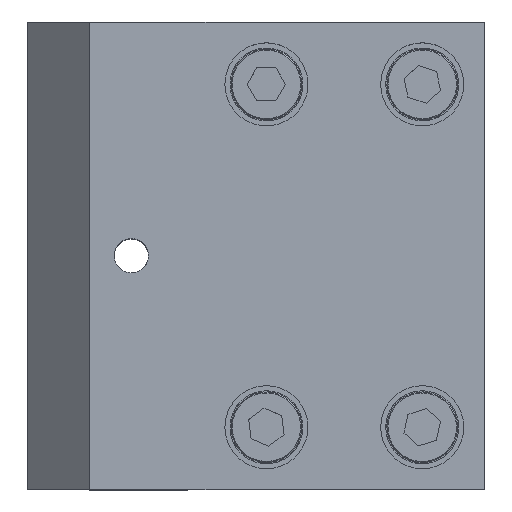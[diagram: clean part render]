
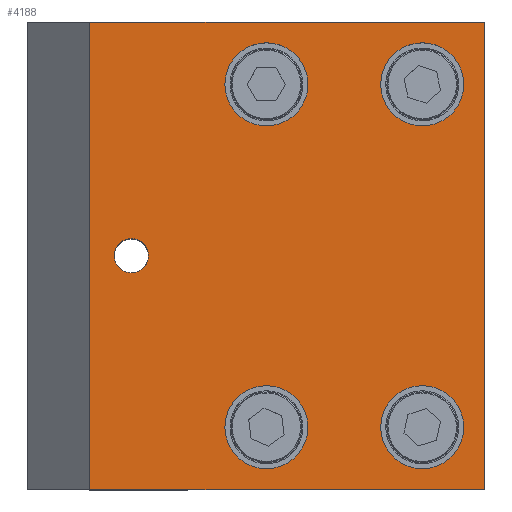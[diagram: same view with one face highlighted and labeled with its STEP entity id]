
A CAD part, top view. The second image highlights one B-rep face of the part: STEP entity #4188.
In plain terms, the highlighted planar face has unit normal (0, 0, 1).
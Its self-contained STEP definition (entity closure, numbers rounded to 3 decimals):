
#89 = CARTESIAN_POINT ( 'NONE',  ( -3., 16.5, 25. ) ) ;
#158 = AXIS2_PLACEMENT_3D ( 'NONE', #8154, #1831, #7593 ) ;
#183 = VERTEX_POINT ( 'NONE', #576 ) ;
#191 = ORIENTED_EDGE ( 'NONE', *, *, #4405, .F. ) ;
#205 = DIRECTION ( 'NONE',  ( 0., 0., 1. ) ) ;
#240 = CARTESIAN_POINT ( 'NONE',  ( 16., -16.5, 25. ) ) ;
#285 = EDGE_CURVE ( 'NONE', #2793, #6617, #8014, .T. ) ;
#312 = EDGE_CURVE ( 'NONE', #2183, #5331, #1659, .T. ) ;
#429 = AXIS2_PLACEMENT_3D ( 'NONE', #1101, #4335, #7480 ) ;
#464 = CIRCLE ( 'NONE', #6300, 4. ) ;
#541 = CIRCLE ( 'NONE', #6600, 4. ) ;
#576 = CARTESIAN_POINT ( 'NONE',  ( 22., 22.5, 25. ) ) ;
#616 = DIRECTION ( 'NONE',  ( 0., 0., 1. ) ) ;
#624 = CARTESIAN_POINT ( 'NONE',  ( -10.35, 0., 25. ) ) ;
#662 = VERTEX_POINT ( 'NONE', #3191 ) ;
#711 = DIRECTION ( 'NONE',  ( 1., 0., 0. ) ) ;
#727 = VECTOR ( 'NONE', #1612, 1000. ) ;
#800 = CARTESIAN_POINT ( 'NONE',  ( 22., -22.5, 25. ) ) ;
#816 = CARTESIAN_POINT ( 'NONE',  ( -13.65, 0., 25. ) ) ;
#842 = ORIENTED_EDGE ( 'NONE', *, *, #312, .F. ) ;
#934 = EDGE_CURVE ( 'NONE', #6790, #6518, #464, .T. ) ;
#939 = DIRECTION ( 'NONE',  ( -1., 0., 0. ) ) ;
#971 = DIRECTION ( 'NONE',  ( 1., 0., 0. ) ) ;
#1101 = CARTESIAN_POINT ( 'NONE',  ( 1., -16.5, 25. ) ) ;
#1166 = ORIENTED_EDGE ( 'NONE', *, *, #4482, .T. ) ;
#1181 = ORIENTED_EDGE ( 'NONE', *, *, #3291, .F. ) ;
#1315 = FACE_BOUND ( 'NONE', #6960, .T. ) ;
#1555 = CARTESIAN_POINT ( 'NONE',  ( 16., 16.5, 25. ) ) ;
#1612 = DIRECTION ( 'NONE',  ( 1., 0., 0. ) ) ;
#1659 = CIRCLE ( 'NONE', #2491, 1.65 ) ;
#1688 = CARTESIAN_POINT ( 'NONE',  ( 22., -22.5, 25. ) ) ;
#1800 = EDGE_CURVE ( 'NONE', #6518, #6790, #541, .T. ) ;
#1831 = DIRECTION ( 'NONE',  ( 0., 0., 1. ) ) ;
#2053 = AXIS2_PLACEMENT_3D ( 'NONE', #5293, #4639, #6530 ) ;
#2062 = AXIS2_PLACEMENT_3D ( 'NONE', #2876, #2957, #6751 ) ;
#2070 = ORIENTED_EDGE ( 'NONE', *, *, #1800, .F. ) ;
#2183 = VERTEX_POINT ( 'NONE', #816 ) ;
#2215 = VECTOR ( 'NONE', #6743, 1000. ) ;
#2250 = ORIENTED_EDGE ( 'NONE', *, *, #934, .F. ) ;
#2253 = CARTESIAN_POINT ( 'NONE',  ( -16., -22.5, 25. ) ) ;
#2279 = VERTEX_POINT ( 'NONE', #8118 ) ;
#2491 = AXIS2_PLACEMENT_3D ( 'NONE', #7672, #6491, #6514 ) ;
#2520 = PLANE ( 'NONE',  #4169 ) ;
#2589 = CARTESIAN_POINT ( 'NONE',  ( 12., -16.5, 25. ) ) ;
#2622 = EDGE_CURVE ( 'NONE', #6046, #2279, #4202, .T. ) ;
#2655 = CARTESIAN_POINT ( 'NONE',  ( 12., 16.5, 25. ) ) ;
#2702 = CARTESIAN_POINT ( 'NONE',  ( 5., -16.5, 25. ) ) ;
#2714 = AXIS2_PLACEMENT_3D ( 'NONE', #240, #3443, #4019 ) ;
#2793 = VERTEX_POINT ( 'NONE', #89 ) ;
#2876 = CARTESIAN_POINT ( 'NONE',  ( 16., -16.5, 25. ) ) ;
#2957 = DIRECTION ( 'NONE',  ( 0., 0., 1. ) ) ;
#3132 = FACE_BOUND ( 'NONE', #7329, .T. ) ;
#3191 = CARTESIAN_POINT ( 'NONE',  ( 22., -22.5, 25. ) ) ;
#3291 = EDGE_CURVE ( 'NONE', #2279, #6046, #5394, .T. ) ;
#3443 = DIRECTION ( 'NONE',  ( 0., 0., 1. ) ) ;
#3572 = EDGE_LOOP ( 'NONE', ( #2250, #2070 ) ) ;
#3661 = VERTEX_POINT ( 'NONE', #7349 ) ;
#3933 = ORIENTED_EDGE ( 'NONE', *, *, #5571, .F. ) ;
#4019 = DIRECTION ( 'NONE',  ( 1., 0., 0. ) ) ;
#4169 = AXIS2_PLACEMENT_3D ( 'NONE', #5576, #7572, #8100 ) ;
#4188 = ADVANCED_FACE ( 'NONE', ( #7774, #1315, #7964, #7184, #3132, #6287 ), #2520, .T. ) ;
#4202 = CIRCLE ( 'NONE', #429, 4. ) ;
#4218 = ORIENTED_EDGE ( 'NONE', *, *, #2622, .F. ) ;
#4235 = ORIENTED_EDGE ( 'NONE', *, *, #6280, .T. ) ;
#4296 = CIRCLE ( 'NONE', #158, 1.65 ) ;
#4335 = DIRECTION ( 'NONE',  ( 0., 0., 1. ) ) ;
#4400 = CARTESIAN_POINT ( 'NONE',  ( 1., -16.5, 25. ) ) ;
#4405 = EDGE_CURVE ( 'NONE', #6617, #2793, #7553, .T. ) ;
#4470 = LINE ( 'NONE', #800, #2215 ) ;
#4482 = EDGE_CURVE ( 'NONE', #183, #6140, #6764, .T. ) ;
#4521 = ORIENTED_EDGE ( 'NONE', *, *, #4997, .T. ) ;
#4620 = CARTESIAN_POINT ( 'NONE',  ( 1., 16.5, 25. ) ) ;
#4639 = DIRECTION ( 'NONE',  ( 0., 0., 1. ) ) ;
#4750 = CARTESIAN_POINT ( 'NONE',  ( 22., 22.5, 25. ) ) ;
#4818 = VERTEX_POINT ( 'NONE', #2589 ) ;
#4921 = ORIENTED_EDGE ( 'NONE', *, *, #6347, .F. ) ;
#4960 = EDGE_CURVE ( 'NONE', #4818, #5131, #5873, .T. ) ;
#4997 = EDGE_CURVE ( 'NONE', #662, #183, #4470, .T. ) ;
#5051 = DIRECTION ( 'NONE',  ( 1., 0., 0. ) ) ;
#5131 = VERTEX_POINT ( 'NONE', #5570 ) ;
#5213 = ORIENTED_EDGE ( 'NONE', *, *, #4960, .F. ) ;
#5245 = EDGE_LOOP ( 'NONE', ( #4921, #842 ) ) ;
#5293 = CARTESIAN_POINT ( 'NONE',  ( 1., 16.5, 25. ) ) ;
#5331 = VERTEX_POINT ( 'NONE', #624 ) ;
#5394 = CIRCLE ( 'NONE', #7614, 4. ) ;
#5441 = DIRECTION ( 'NONE',  ( 0., 0., 1. ) ) ;
#5474 = VECTOR ( 'NONE', #939, 1000. ) ;
#5493 = AXIS2_PLACEMENT_3D ( 'NONE', #4620, #205, #711 ) ;
#5542 = EDGE_CURVE ( 'NONE', #6140, #3661, #7058, .T. ) ;
#5570 = CARTESIAN_POINT ( 'NONE',  ( 20., -16.5, 25. ) ) ;
#5571 = EDGE_CURVE ( 'NONE', #5131, #4818, #6359, .T. ) ;
#5576 = CARTESIAN_POINT ( 'NONE',  ( 0., 0., 25. ) ) ;
#5873 = CIRCLE ( 'NONE', #2714, 4. ) ;
#5960 = CARTESIAN_POINT ( 'NONE',  ( 5., 16.5, 25. ) ) ;
#6046 = VERTEX_POINT ( 'NONE', #2702 ) ;
#6140 = VERTEX_POINT ( 'NONE', #7831 ) ;
#6252 = ORIENTED_EDGE ( 'NONE', *, *, #285, .F. ) ;
#6280 = EDGE_CURVE ( 'NONE', #3661, #662, #7678, .T. ) ;
#6287 = FACE_OUTER_BOUND ( 'NONE', #6846, .T. ) ;
#6300 = AXIS2_PLACEMENT_3D ( 'NONE', #7399, #8057, #971 ) ;
#6347 = EDGE_CURVE ( 'NONE', #5331, #2183, #4296, .T. ) ;
#6359 = CIRCLE ( 'NONE', #2062, 4. ) ;
#6424 = EDGE_LOOP ( 'NONE', ( #4218, #1181 ) ) ;
#6491 = DIRECTION ( 'NONE',  ( 0., 0., 1. ) ) ;
#6514 = DIRECTION ( 'NONE',  ( 1., 0., 0. ) ) ;
#6518 = VERTEX_POINT ( 'NONE', #2655 ) ;
#6530 = DIRECTION ( 'NONE',  ( 1., 0., 0. ) ) ;
#6600 = AXIS2_PLACEMENT_3D ( 'NONE', #1555, #5441, #7907 ) ;
#6617 = VERTEX_POINT ( 'NONE', #5960 ) ;
#6674 = DIRECTION ( 'NONE',  ( 0., -1., 0. ) ) ;
#6743 = DIRECTION ( 'NONE',  ( 0., 1., 0. ) ) ;
#6751 = DIRECTION ( 'NONE',  ( 1., 0., 0. ) ) ;
#6764 = LINE ( 'NONE', #4750, #5474 ) ;
#6790 = VERTEX_POINT ( 'NONE', #7005 ) ;
#6846 = EDGE_LOOP ( 'NONE', ( #1166, #7705, #4235, #4521 ) ) ;
#6854 = VECTOR ( 'NONE', #6674, 1000. ) ;
#6960 = EDGE_LOOP ( 'NONE', ( #191, #6252 ) ) ;
#7005 = CARTESIAN_POINT ( 'NONE',  ( 20., 16.5, 25. ) ) ;
#7058 = LINE ( 'NONE', #2253, #6854 ) ;
#7184 = FACE_BOUND ( 'NONE', #6424, .T. ) ;
#7329 = EDGE_LOOP ( 'NONE', ( #3933, #5213 ) ) ;
#7349 = CARTESIAN_POINT ( 'NONE',  ( -16., -22.5, 25. ) ) ;
#7399 = CARTESIAN_POINT ( 'NONE',  ( 16., 16.5, 25. ) ) ;
#7480 = DIRECTION ( 'NONE',  ( 1., 0., 0. ) ) ;
#7553 = CIRCLE ( 'NONE', #2053, 4. ) ;
#7572 = DIRECTION ( 'NONE',  ( 0., 0., 1. ) ) ;
#7593 = DIRECTION ( 'NONE',  ( 1., 0., 0. ) ) ;
#7614 = AXIS2_PLACEMENT_3D ( 'NONE', #4400, #616, #5051 ) ;
#7672 = CARTESIAN_POINT ( 'NONE',  ( -12., 0., 25. ) ) ;
#7678 = LINE ( 'NONE', #1688, #727 ) ;
#7705 = ORIENTED_EDGE ( 'NONE', *, *, #5542, .T. ) ;
#7774 = FACE_BOUND ( 'NONE', #5245, .T. ) ;
#7831 = CARTESIAN_POINT ( 'NONE',  ( -16., 22.5, 25. ) ) ;
#7907 = DIRECTION ( 'NONE',  ( 1., 0., 0. ) ) ;
#7964 = FACE_BOUND ( 'NONE', #3572, .T. ) ;
#8014 = CIRCLE ( 'NONE', #5493, 4. ) ;
#8057 = DIRECTION ( 'NONE',  ( 0., 0., 1. ) ) ;
#8100 = DIRECTION ( 'NONE',  ( 1., 0., 0. ) ) ;
#8118 = CARTESIAN_POINT ( 'NONE',  ( -3., -16.5, 25. ) ) ;
#8154 = CARTESIAN_POINT ( 'NONE',  ( -12., 0., 25. ) ) ;
